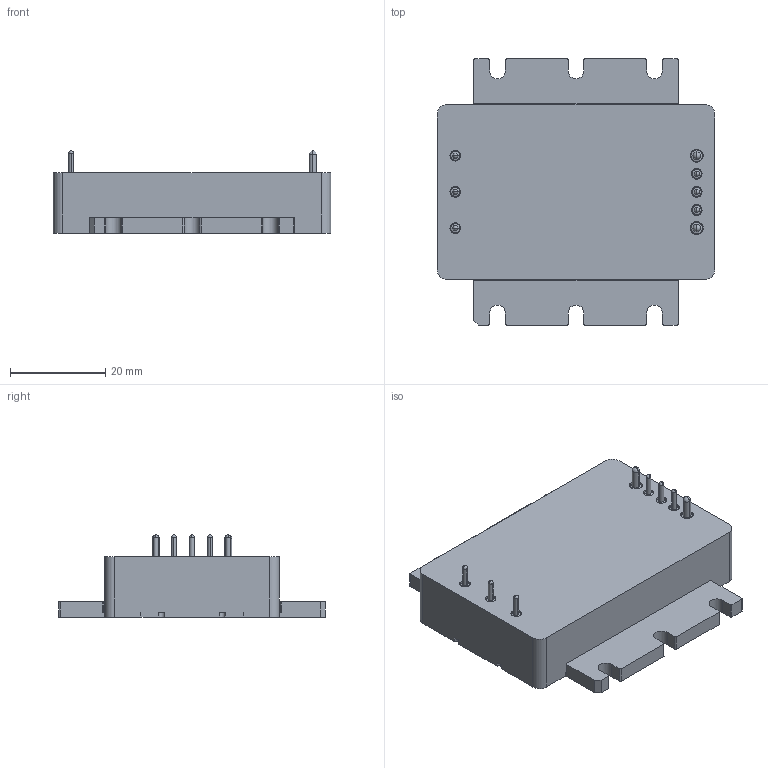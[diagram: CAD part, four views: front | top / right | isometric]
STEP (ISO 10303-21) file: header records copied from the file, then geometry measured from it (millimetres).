
FILE_DESCRIPTION (( 'STEP AP203' ), '1' );
FILE_NAME ('QB_Flanged.STEP', '2024-10-23T11:29:30', ( '' ), ( '' ), 'SwSTEP 2.0', 'SolidWorks 2021', '' );
FILE_SCHEMA (( 'CONFIG_CONTROL_DESIGN' ));
Length unit declared in the file: millimetre
Products named in the file (1): QB_Flanged
Bounding box: 58.4 x 56 x 17.3 mm (x, y, z)
Volume: 25184.6 mm3; surface area: 14000.1 mm2
Topology: 1 solids, 9 shells, 525 faces, 1373 edges, 868 vertices
Faces by surface type: plane 303, cylinder 158, cone 48, sphere 16
Entity records: 16810 total; most frequent: CARTESIAN_POINT 4239, ORIENTED_EDGE 2706, DIRECTION 2507, EDGE_CURVE 1353, AXIS2_PLACEMENT_3D 936, VERTEX_POINT 864, VECTOR 635, LINE 635
